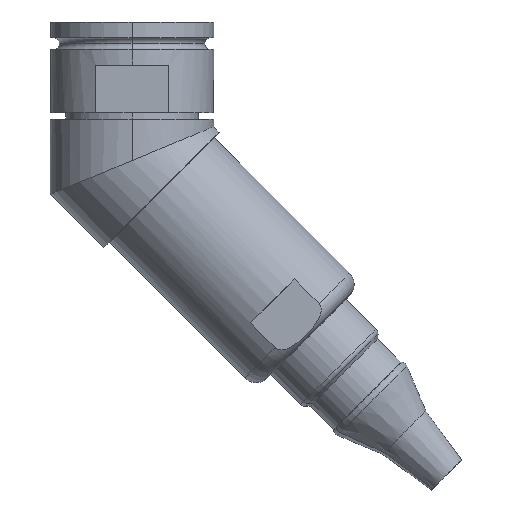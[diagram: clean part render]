
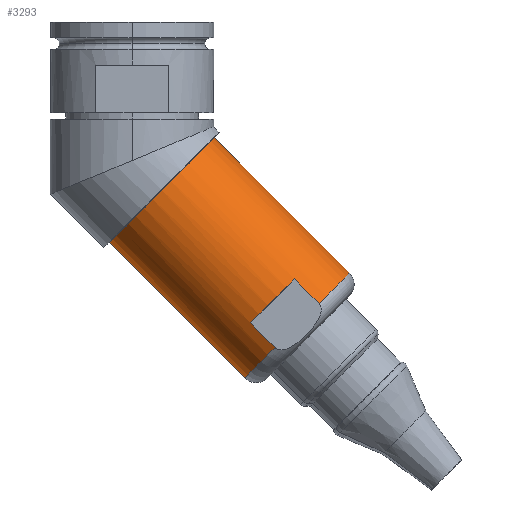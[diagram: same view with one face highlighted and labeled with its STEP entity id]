
A CAD part, left-side view. The second image highlights one B-rep face of the part: STEP entity #3293.
In plain terms, the highlighted cylindrical face has radius 14.77 mm (diameter 29.54 mm), a partial arc.
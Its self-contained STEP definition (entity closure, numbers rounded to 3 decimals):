
#75 = CIRCLE ( 'NONE', #4408, 14.77 ) ;
#111 = DIRECTION ( 'NONE',  ( 0., 0.707, 0.707 ) ) ;
#245 = DIRECTION ( 'NONE',  ( 0., 0.707, 0.707 ) ) ;
#378 = CIRCLE ( 'NONE', #4728, 14.77 ) ;
#414 = CARTESIAN_POINT ( 'NONE',  ( 0., 4.504, -38.373 ) ) ;
#415 = CARTESIAN_POINT ( 'NONE',  ( -13.399, -32.427, -45.625 ) ) ;
#416 = CIRCLE ( 'NONE', #4773, 14.77 ) ;
#426 = ORIENTED_EDGE ( 'NONE', *, *, #3234, .T. ) ;
#456 = FACE_OUTER_BOUND ( 'NONE', #7542, .T. ) ;
#470 = VERTEX_POINT ( 'NONE', #6721 ) ;
#655 = DIRECTION ( 'NONE',  ( 0., -0.707, 0.707 ) ) ;
#830 = VERTEX_POINT ( 'NONE', #4984 ) ;
#843 = CARTESIAN_POINT ( 'NONE',  ( -13.399, -23.636, -54.416 ) ) ;
#879 = EDGE_CURVE ( 'NONE', #7174, #4202, #5648, .T. ) ;
#1227 = ORIENTED_EDGE ( 'NONE', *, *, #3068, .F. ) ;
#1393 = EDGE_CURVE ( 'NONE', #830, #2120, #416, .T. ) ;
#1403 = CARTESIAN_POINT ( 'NONE',  ( 0., -5.94, -27.929 ) ) ;
#1422 = ORIENTED_EDGE ( 'NONE', *, *, #3855, .F. ) ;
#1480 = CARTESIAN_POINT ( 'NONE',  ( 0., -16.384, -17.485 ) ) ;
#1703 = CARTESIAN_POINT ( 'NONE',  ( -13.399, -37.366, -50.564 ) ) ;
#1720 = CARTESIAN_POINT ( 'NONE',  ( -13.399, -28.575, -59.355 ) ) ;
#1858 = ORIENTED_EDGE ( 'NONE', *, *, #4351, .F. ) ;
#2097 = AXIS2_PLACEMENT_3D ( 'NONE', #6279, #6398, #4610 ) ;
#2120 = VERTEX_POINT ( 'NONE', #1720 ) ;
#2247 = DIRECTION ( 'NONE',  ( 0., 0.707, 0.707 ) ) ;
#2349 = LINE ( 'NONE', #4110, #4780 ) ;
#2715 = ORIENTED_EDGE ( 'NONE', *, *, #7470, .F. ) ;
#2858 = VERTEX_POINT ( 'NONE', #414 ) ;
#2915 = CARTESIAN_POINT ( 'NONE',  ( 0., -16.384, -17.485 ) ) ;
#3068 = EDGE_CURVE ( 'NONE', #4696, #2120, #4271, .T. ) ;
#3234 = EDGE_CURVE ( 'NONE', #470, #7024, #6858, .T. ) ;
#3293 = ADVANCED_FACE ( 'NONE', ( #456 ), #3367, .T. ) ;
#3307 = ORIENTED_EDGE ( 'NONE', *, *, #1393, .T. ) ;
#3367 = CYLINDRICAL_SURFACE ( 'NONE', #2097, 14.77 ) ;
#3655 = DIRECTION ( 'NONE',  ( 0., -0.707, -0.707 ) ) ;
#3790 = DIRECTION ( 'NONE',  ( 0., 0.707, 0.707 ) ) ;
#3808 = DIRECTION ( 'NONE',  ( 0., -0.707, 0.707 ) ) ;
#3855 = EDGE_CURVE ( 'NONE', #2858, #4202, #378, .T. ) ;
#3891 = ORIENTED_EDGE ( 'NONE', *, *, #7320, .T. ) ;
#4110 = CARTESIAN_POINT ( 'NONE',  ( 0., 4.504, -38.373 ) ) ;
#4202 = VERTEX_POINT ( 'NONE', #2915 ) ;
#4253 = CARTESIAN_POINT ( 'NONE',  ( -13.399, -23.636, -54.416 ) ) ;
#4271 = LINE ( 'NONE', #843, #7271 ) ;
#4351 = EDGE_CURVE ( 'NONE', #830, #2858, #2349, .T. ) ;
#4408 = AXIS2_PLACEMENT_3D ( 'NONE', #5975, #3655, #655 ) ;
#4555 = DIRECTION ( 'NONE',  ( 0., -0.707, 0.707 ) ) ;
#4610 = DIRECTION ( 'NONE',  ( 0., -0.707, 0.707 ) ) ;
#4696 = VERTEX_POINT ( 'NONE', #4253 ) ;
#4723 = ORIENTED_EDGE ( 'NONE', *, *, #879, .T. ) ;
#4728 = AXIS2_PLACEMENT_3D ( 'NONE', #1403, #111, #6183 ) ;
#4731 = DIRECTION ( 'NONE',  ( 0., 0.707, 0.707 ) ) ;
#4773 = AXIS2_PLACEMENT_3D ( 'NONE', #6293, #2247, #4555 ) ;
#4780 = VECTOR ( 'NONE', #4731, 1000. ) ;
#4806 = VECTOR ( 'NONE', #3790, 1000. ) ;
#4984 = CARTESIAN_POINT ( 'NONE',  ( 0., -22.526, -65.404 ) ) ;
#5118 = CIRCLE ( 'NONE', #6117, 14.77 ) ;
#5364 = CARTESIAN_POINT ( 'NONE',  ( 0., -43.414, -44.516 ) ) ;
#5558 = CARTESIAN_POINT ( 'NONE',  ( 0., -32.97, -54.96 ) ) ;
#5648 = LINE ( 'NONE', #1480, #4806 ) ;
#5975 = CARTESIAN_POINT ( 'NONE',  ( 0., -28.031, -50.021 ) ) ;
#6117 = AXIS2_PLACEMENT_3D ( 'NONE', #5558, #245, #3808 ) ;
#6183 = DIRECTION ( 'NONE',  ( 0., -0.707, 0.707 ) ) ;
#6279 = CARTESIAN_POINT ( 'NONE',  ( 0., -5.94, -27.929 ) ) ;
#6293 = CARTESIAN_POINT ( 'NONE',  ( 0., -32.97, -54.96 ) ) ;
#6398 = DIRECTION ( 'NONE',  ( 0., 0.707, 0.707 ) ) ;
#6632 = DIRECTION ( 'NONE',  ( 0., -0.707, -0.707 ) ) ;
#6721 = CARTESIAN_POINT ( 'NONE',  ( -13.399, -32.427, -45.625 ) ) ;
#6858 = LINE ( 'NONE', #415, #7325 ) ;
#7024 = VERTEX_POINT ( 'NONE', #1703 ) ;
#7174 = VERTEX_POINT ( 'NONE', #5364 ) ;
#7271 = VECTOR ( 'NONE', #6632, 1000. ) ;
#7320 = EDGE_CURVE ( 'NONE', #7024, #7174, #5118, .T. ) ;
#7325 = VECTOR ( 'NONE', #7594, 1000. ) ;
#7470 = EDGE_CURVE ( 'NONE', #470, #4696, #75, .T. ) ;
#7542 = EDGE_LOOP ( 'NONE', ( #1858, #3307, #1227, #2715, #426, #3891, #4723, #1422 ) ) ;
#7594 = DIRECTION ( 'NONE',  ( 0., -0.707, -0.707 ) ) ;
